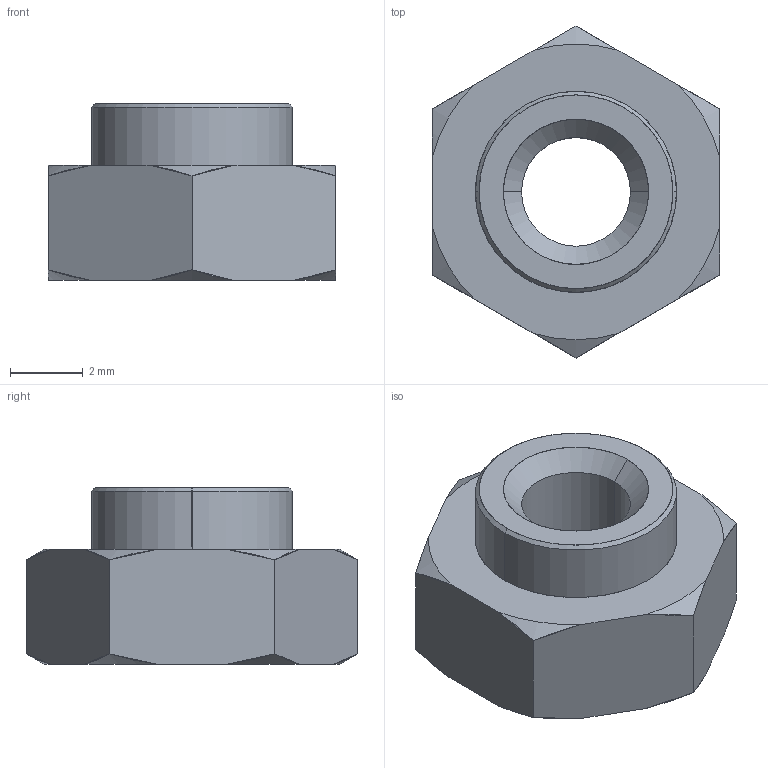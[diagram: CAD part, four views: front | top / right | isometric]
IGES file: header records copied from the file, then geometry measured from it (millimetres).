
Start section: SolidWorks IGES file using analytic representation for surfaces
Global section: file name: C:\Users\liam_\OneDrive\Desktop\Work\Mat Davis Pending 20181125\automotion\P SERIES\P0827.ZP_v2\P0827.ZP_v2_20181231_IGES\P0827.030-18G-ZP.igs; native system: SolidWorks 2017; preprocessor: SolidWorks 2017; author: liam_; date: 181231.110250; units: millimetre
Bounding box: 7.92 x 9.15 x 4.87 mm (x, y, z)
Surface area: 247.9 mm2 (no closed solid volume)
Topology: 0 solids, 0 shells, 31 faces, 336 edges, 336 vertices
Faces by surface type: revolution 22, bspline 9
